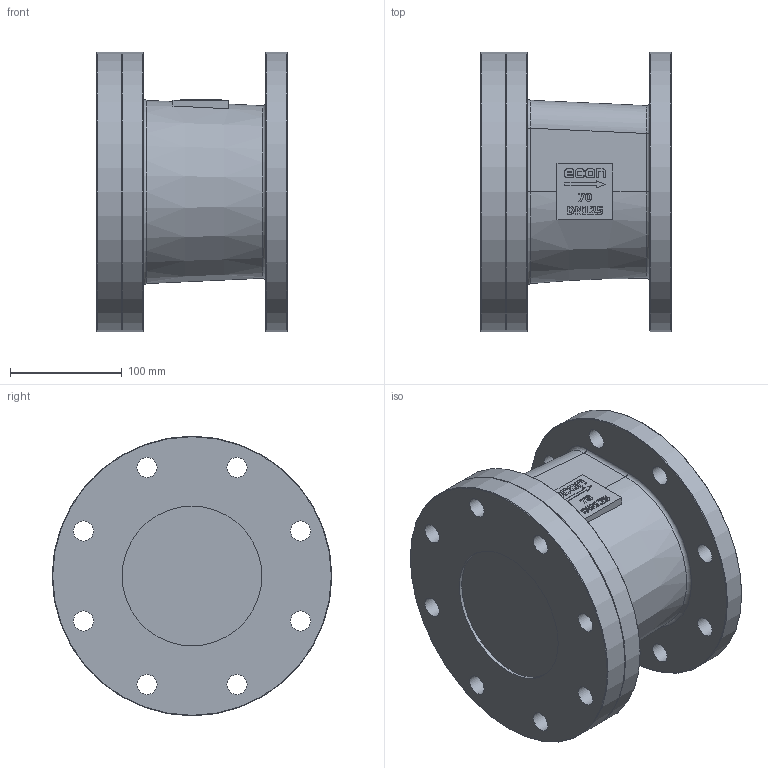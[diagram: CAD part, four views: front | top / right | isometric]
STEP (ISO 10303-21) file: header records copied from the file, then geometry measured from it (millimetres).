
FILE_DESCRIPTION(/* description */ ('13487832'),/* implementation_level */ '2;1');
FILE_NAME(/* name */ 'L:\DATA\ENG\Inventor\Econ 3D modellen\terugslagklep\70NGY\70NGY-DN125-PN16.stp',/* time_stamp */ '2023-12-05T08:38:55+01:00',/* author */ ('roger.thijssen'),/* organization */ (''),/* preprocessor_version */ 'ST-DEVELOPER v18',/* originating_system */ 'Autodesk Inventor 2020',/* authorisation */ '');
FILE_SCHEMA (('CONFIG_CONTROL_DESIGN'));
Length unit declared in the file: millimetre
Products named in the file (1): Check valve, 70NGY-DN125-PN16
Bounding box: 170 x 250 x 250 mm (x, y, z)
Volume: 5227643.5 mm3; surface area: 279589.5 mm2
Topology: 1 solids, 1 shells, 219 faces, 588 edges, 391 vertices
Faces by surface type: plane 120, bspline 48, cylinder 42, cone 7, torus 2
Full cylindrical faces by diameter (mm): 18 x16, 125 x2, 250 x3
Entity records: 7473 total; most frequent: CARTESIAN_POINT 2041, ORIENTED_EDGE 1176, DIRECTION 958, EDGE_CURVE 588, VERTEX_POINT 391, LINE 384, VECTOR 384, AXIS2_PLACEMENT_3D 287
